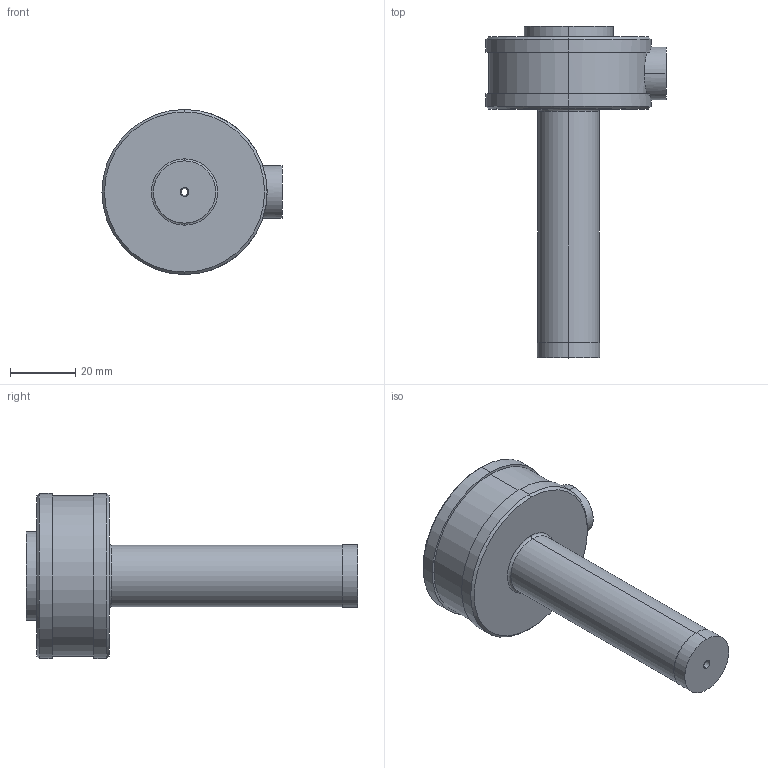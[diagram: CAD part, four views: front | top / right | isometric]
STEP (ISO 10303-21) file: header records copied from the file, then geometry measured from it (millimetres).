
FILE_DESCRIPTION (( 'STEP AP203' ), '1' );
FILE_NAME ('SB030024.STEP', '2009-05-05T18:25:14', ( 'Frank J. Eigler' ), ( 'DME' ), 'SwSTEP 2.0', 'SolidWorks 2009', '' );
FILE_SCHEMA (( 'CONFIG_CONTROL_DESIGN' ));
Length unit declared in the file: inch
Products named in the file (1): SB030024
Bounding box: 55.12 x 101.6 x 50.55 mm (x, y, z)
Volume: 64931.3 mm3; surface area: 14037.6 mm2
Topology: 1 solids, 1 shells, 37 faces, 92 edges, 58 vertices
Faces by surface type: cylinder 17, plane 8, cone 6, sphere 4, torus 2
Entity records: 1277 total; most frequent: CARTESIAN_POINT 278, DIRECTION 218, ORIENTED_EDGE 180, AXIS2_PLACEMENT_3D 96, EDGE_CURVE 90, CIRCLE 58, VERTEX_POINT 58, EDGE_LOOP 42
